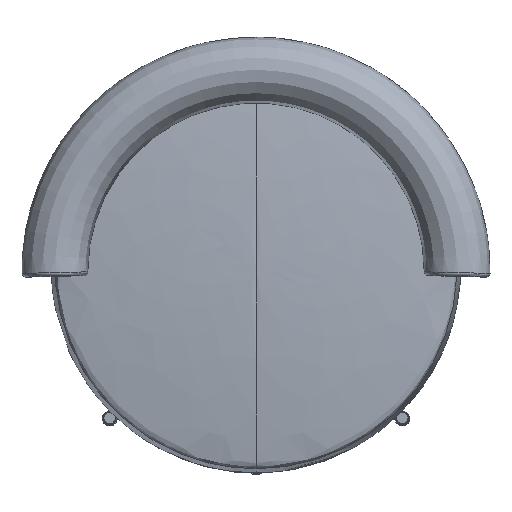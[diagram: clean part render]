
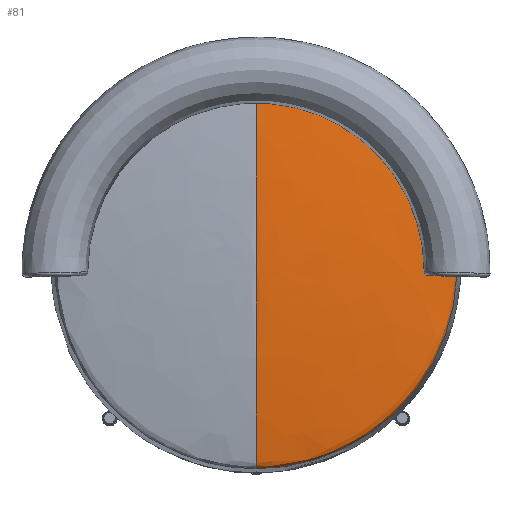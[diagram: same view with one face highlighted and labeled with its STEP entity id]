
A CAD part, top view. The second image highlights one B-rep face of the part: STEP entity #81.
In plain terms, the highlighted free-form (B-spline) face has degree [2, 2] with [5, 5] control points.
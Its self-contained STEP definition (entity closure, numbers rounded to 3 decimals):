
#81=ADVANCED_FACE('',(#224),#1821,.T.);
#224=FACE_OUTER_BOUND('',#353,.T.);
#353=EDGE_LOOP('',(#540,#541,#542));
#540=ORIENTED_EDGE('',*,*,#1099,.T.);
#541=ORIENTED_EDGE('',*,*,#1101,.T.);
#542=ORIENTED_EDGE('',*,*,#1104,.F.);
#1099=EDGE_CURVE('',#1633,#1635,#1394,.T.);
#1101=EDGE_CURVE('',#1635,#1636,#1396,.T.);
#1104=EDGE_CURVE('',#1633,#1636,#1399,.T.);
#1394=(
BOUNDED_CURVE()
B_SPLINE_CURVE(2,(#4548,#4549,#4550,#4551,#4552),.UNSPECIFIED.,.F.,.F.)
B_SPLINE_CURVE_WITH_KNOTS((3,2,3),(11.243,37.971,39.176),
 .UNSPECIFIED.)
CURVE()
GEOMETRIC_REPRESENTATION_ITEM()
RATIONAL_B_SPLINE_CURVE((1.,0.998,1.,0.824,1.))
REPRESENTATION_ITEM('')
);
#1396=(
BOUNDED_CURVE()
B_SPLINE_CURVE(2,(#4574,#4575,#4576,#4577,#4578),.UNSPECIFIED.,.F.,.F.)
B_SPLINE_CURVE_WITH_KNOTS((3,2,3),(0.,439.798,879.597),
 .UNSPECIFIED.)
CURVE()
GEOMETRIC_REPRESENTATION_ITEM()
RATIONAL_B_SPLINE_CURVE((1.,0.707,1.,0.707,1.))
REPRESENTATION_ITEM('')
);
#1399=(
BOUNDED_CURVE()
B_SPLINE_CURVE(2,(#4605,#4606,#4607,#4608,#4609),.UNSPECIFIED.,.F.,.F.)
B_SPLINE_CURVE_WITH_KNOTS((3,2,3),(11.243,37.971,39.176),
 .UNSPECIFIED.)
CURVE()
GEOMETRIC_REPRESENTATION_ITEM()
RATIONAL_B_SPLINE_CURVE((1.,0.998,1.,0.824,1.))
REPRESENTATION_ITEM('')
);
#1633=VERTEX_POINT('',#4544);
#1635=VERTEX_POINT('',#4546);
#1636=VERTEX_POINT('',#4547);
#1821=(
BOUNDED_SURFACE()
B_SPLINE_SURFACE(2,2,((#4389,#4390,#4391,#4392,#4393),(#4394,#4395,#4396,
#4397,#4398),(#4399,#4400,#4401,#4402,#4403),(#4404,#4405,#4406,#4407,#4408),
(#4409,#4410,#4411,#4412,#4413)),.UNSPECIFIED.,.F.,.F.,.F.)
B_SPLINE_SURFACE_WITH_KNOTS((3,2,3),(3,2,3),(11.243,37.971,
39.176),(0.,439.798,879.597),.UNSPECIFIED.)
GEOMETRIC_REPRESENTATION_ITEM()
RATIONAL_B_SPLINE_SURFACE(((1.,0.707,1.,0.707,1.),
(0.998,0.705,0.998,0.705,
0.998),(1.,0.707,1.,0.707,1.),(0.824,
0.583,0.824,0.583,0.824),
(1.,0.707,1.,0.707,1.)))
REPRESENTATION_ITEM('')
SURFACE()
);
#4389=CARTESIAN_POINT('',(0.,-17.377,710.469));
#4390=CARTESIAN_POINT('',(0.,-17.377,710.469));
#4391=CARTESIAN_POINT('',(0.,-17.377,710.469));
#4392=CARTESIAN_POINT('',(0.,-17.377,710.469));
#4393=CARTESIAN_POINT('',(0.,-17.377,710.469));
#4394=CARTESIAN_POINT('',(0.,-151.239,710.469));
#4395=CARTESIAN_POINT('',(133.862,-151.239,710.469));
#4396=CARTESIAN_POINT('',(133.862,-17.377,710.469));
#4397=CARTESIAN_POINT('',(133.862,116.484,710.469));
#4398=CARTESIAN_POINT('',(0.,116.484,710.469));
#4399=CARTESIAN_POINT('',(0.,-283.779,692.648));
#4400=CARTESIAN_POINT('',(266.402,-283.779,692.648));
#4401=CARTESIAN_POINT('',(266.402,-17.377,692.648));
#4402=CARTESIAN_POINT('',(266.402,249.024,692.648));
#4403=CARTESIAN_POINT('',(0.,249.024,692.648));
#4404=CARTESIAN_POINT('',(0.,-290.592,691.732));
#4405=CARTESIAN_POINT('',(273.214,-290.592,691.732));
#4406=CARTESIAN_POINT('',(273.214,-17.377,691.732));
#4407=CARTESIAN_POINT('',(273.214,255.837,691.732));
#4408=CARTESIAN_POINT('',(0.,255.837,691.732));
#4409=CARTESIAN_POINT('',(0.,-292.126,685.361));
#4410=CARTESIAN_POINT('',(274.748,-292.126,685.361));
#4411=CARTESIAN_POINT('',(274.748,-17.377,685.361));
#4412=CARTESIAN_POINT('',(274.748,257.371,685.361));
#4413=CARTESIAN_POINT('',(0.,257.371,685.361));
#4544=CARTESIAN_POINT('',(0.,-17.377,710.469));
#4546=CARTESIAN_POINT('',(0.,-292.126,685.361));
#4547=CARTESIAN_POINT('',(0.,257.371,685.361));
#4548=CARTESIAN_POINT('',(0.,-17.377,710.469));
#4549=CARTESIAN_POINT('',(0.,-151.239,710.469));
#4550=CARTESIAN_POINT('',(0.,-283.779,692.648));
#4551=CARTESIAN_POINT('',(0.,-290.592,691.732));
#4552=CARTESIAN_POINT('',(0.,-292.126,685.361));
#4574=CARTESIAN_POINT('',(0.,-292.126,685.361));
#4575=CARTESIAN_POINT('',(274.748,-292.126,685.361));
#4576=CARTESIAN_POINT('',(274.748,-17.377,685.361));
#4577=CARTESIAN_POINT('',(274.748,257.371,685.361));
#4578=CARTESIAN_POINT('',(0.,257.371,685.361));
#4605=CARTESIAN_POINT('',(0.,-17.377,710.469));
#4606=CARTESIAN_POINT('',(0.,116.484,710.469));
#4607=CARTESIAN_POINT('',(0.,249.024,692.648));
#4608=CARTESIAN_POINT('',(0.,255.837,691.732));
#4609=CARTESIAN_POINT('',(0.,257.371,685.361));
